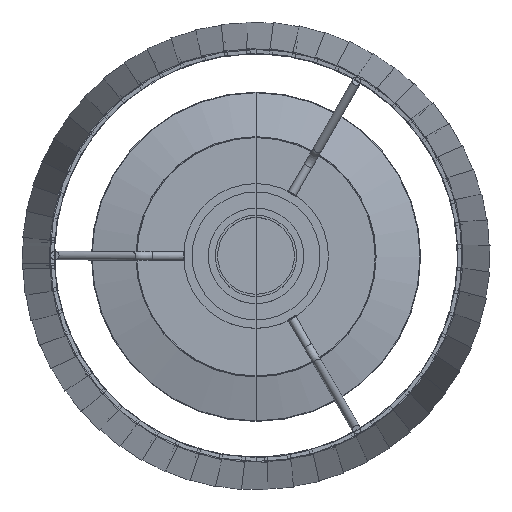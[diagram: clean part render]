
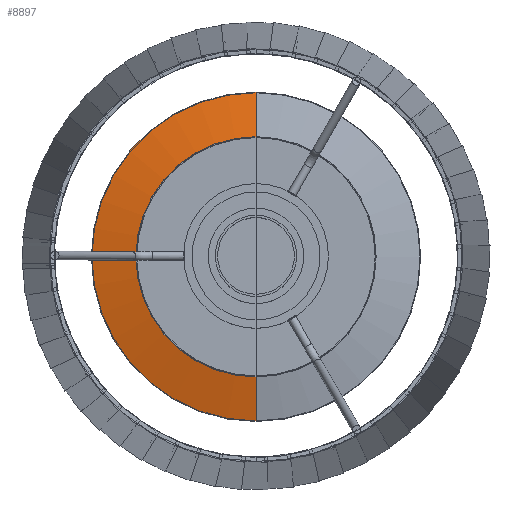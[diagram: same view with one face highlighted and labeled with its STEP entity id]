
A CAD part, top view. The second image highlights one B-rep face of the part: STEP entity #8897.
In plain terms, the highlighted conical face has half-angle 76.679 degrees and reference radius 73.944 mm.
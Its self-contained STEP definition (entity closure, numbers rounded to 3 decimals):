
#36=CONICAL_SURFACE('',#9562,73.944,1.338);
#722=FACE_OUTER_BOUND('',#1303,.T.);
#1303=EDGE_LOOP('',(#6383,#6384,#6385,#6386));
#1921=LINE('',#12884,#3039);
#1922=LINE('',#12887,#3040);
#3039=VECTOR('',#10298,304.8);
#3040=VECTOR('',#10301,304.8);
#4157=CIRCLE('',#9563,55.436);
#4158=CIRCLE('',#9564,76.001);
#4263=VERTEX_POINT('',#12880);
#4264=VERTEX_POINT('',#12881);
#4265=VERTEX_POINT('',#12883);
#4266=VERTEX_POINT('',#12885);
#5086=EDGE_CURVE('',#4265,#4263,#1921,.T.);
#5088=EDGE_CURVE('',#4264,#4266,#1922,.T.);
#5089=EDGE_CURVE('',#4264,#4263,#4157,.T.);
#5090=EDGE_CURVE('',#4265,#4266,#4158,.T.);
#6383=ORIENTED_EDGE('',*,*,#5089,.F.);
#6384=ORIENTED_EDGE('',*,*,#5088,.T.);
#6385=ORIENTED_EDGE('',*,*,#5090,.F.);
#6386=ORIENTED_EDGE('',*,*,#5086,.T.);
#8897=ADVANCED_FACE('',(#722),#36,.T.);
#9562=AXIS2_PLACEMENT_3D('',#12888,#10302,#10303);
#9563=AXIS2_PLACEMENT_3D('',#12889,#10304,#10305);
#9564=AXIS2_PLACEMENT_3D('',#12890,#10306,#10307);
#10298=DIRECTION('',(0.,0.973,0.23));
#10301=DIRECTION('',(0.,0.973,-0.23));
#10302=DIRECTION('center_axis',(0.,0.,-1.));
#10303=DIRECTION('ref_axis',(-0.588,0.809,0.));
#10304=DIRECTION('center_axis',(0.,0.,1.));
#10305=DIRECTION('ref_axis',(-0.588,0.809,0.));
#10306=DIRECTION('center_axis',(0.,0.,
-1.));
#10307=DIRECTION('ref_axis',(-0.588,0.809,0.));
#12880=CARTESIAN_POINT('',(0.,-55.436,7.2));
#12881=CARTESIAN_POINT('',(0.,55.436,7.2));
#12883=CARTESIAN_POINT('',(0.,-76.001,2.331));
#12884=CARTESIAN_POINT('',(0.,-76.001,2.331));
#12885=CARTESIAN_POINT('',(0.,76.001,2.331));
#12887=CARTESIAN_POINT('',(0.,55.436,7.2));
#12888=CARTESIAN_POINT('Origin',(0.,0.,
2.818));
#12889=CARTESIAN_POINT('Origin',(0.,0.,
7.2));
#12890=CARTESIAN_POINT('Origin',(0.,0.,
2.331));
